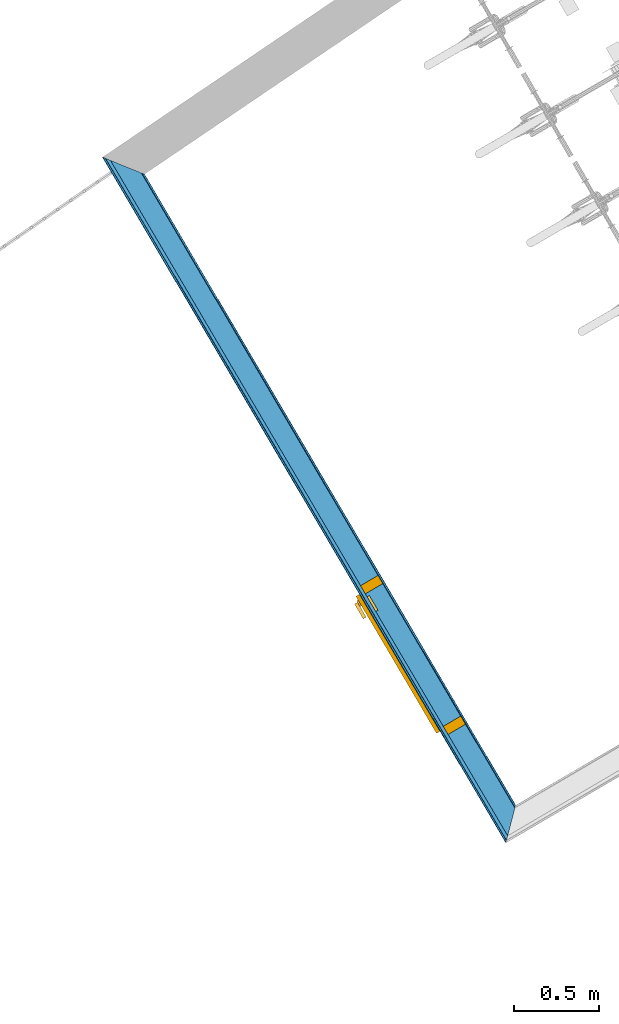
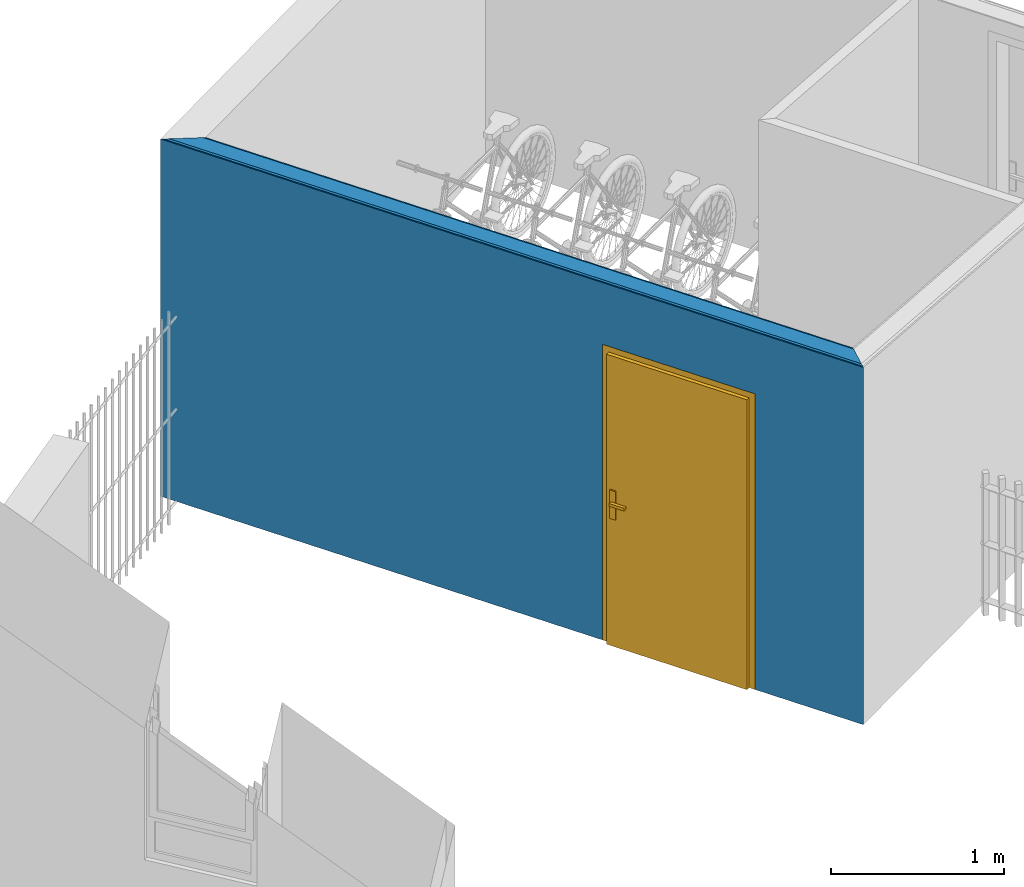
# One storey, part 114 of 195: 4 building element parts, 1 door, 1 opening, 1 element without a shape of its own.
"""IFC2X3 building model written with IfcOpenShell, lengths in metres."""

from ifc_helpers import new_model, entity, si_unit, converted_unit, derived_unit, money_unit, direction, frame, origin_with_axes, origin_2d_with_axis, place, context, subcontext, project, spatial, polyline, rectangle, outline, extrude, boolean, faceted_brep, source, transform, mapped, material, type_object, element, fill, aggregate, save


model = new_model("IFC2X3")

# Units and contexts
model_context = context("Model", 3, precision=1e-05, world=origin_with_axes(), true_north=direction((0.0, 1.0)))
body_context = subcontext(model_context, "Body", "Model", "MODEL_VIEW")
ifc_project = project(units=[si_unit("LENGTHUNIT", "METRE"), si_unit("AREAUNIT", "SQUARE_METRE"), si_unit("VOLUMEUNIT", "CUBIC_METRE"), converted_unit("PLANEANGLEUNIT", "DEGREE", entity("IfcPlaneAngleMeasure", 0.0174532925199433), si_unit("PLANEANGLEUNIT", "RADIAN"), dimensions=[0, 0, 0, 0, 0, 0, 0]), money_unit("CHF"), converted_unit("TIMEUNIT", "Year", entity("IfcTimeMeasure", 31557600.0), si_unit("TIMEUNIT", "SECOND"), dimensions=[0, 0, 1, 0, 0, 0, 0]), si_unit("MASSUNIT", "GRAM", prefix="KILO"), si_unit("THERMODYNAMICTEMPERATUREUNIT", "DEGREE_CELSIUS"), si_unit("LUMINOUSINTENSITYUNIT", "LUMEN"), si_unit("ENERGYUNIT", "JOULE", prefix="MEGA"), derived_unit("THERMALCONDUCTANCEUNIT", [(si_unit("POWERUNIT", "WATT"), 1), (si_unit("LENGTHUNIT", "METRE"), -1), (si_unit("THERMODYNAMICTEMPERATUREUNIT", "KELVIN"), -1)]), derived_unit("SPECIFICHEATCAPACITYUNIT", [(si_unit("ENERGYUNIT", "JOULE"), 1), (si_unit("MASSUNIT", "GRAM", prefix="KILO"), -1), (si_unit("THERMODYNAMICTEMPERATUREUNIT", "KELVIN"), -1)]), derived_unit("MASSDENSITYUNIT", [(si_unit("MASSUNIT", "GRAM", prefix="KILO"), 1), (si_unit("VOLUMEUNIT", "CUBIC_METRE"), -1)])], contexts=[model_context])

# Site, building, storey
site_placement = place(None, origin_with_axes())
site = spatial("IfcSite", under=ifc_project, at=site_placement, Name="Site", CompositionType="ELEMENT")
building_placement = place(site_placement, origin_with_axes())
building = spatial("IfcBuilding", under=site, at=building_placement, Name="Bâtiment", CompositionType="ELEMENT")
storey_placement = place(building_placement, origin_with_axes())
storey = spatial("IfcBuildingStorey", under=building, at=storey_placement, Name="rdc", CompositionType="ELEMENT", Elevation=0.0)

# Door
door_style = type_object("IfcDoorStyle", Name="Porte_1v", ConstructionType="NOTDEFINED", OperationType="NOTDEFINED", ParameterTakesPrecedence=False, Sizeable=False)
shared_shape = source(origin_with_axes(), body_context, "Body", "Brep", [
    faceted_brep([(-0.505, 0.0, 0.0), (-0.505, 0.0, 2.08), (0.505, 0.0, 2.08), (0.505, 0.0, 0.0), (0.465, 0.0, 0.0), (0.465, 0.0, 2.04), (-0.465, 0.0, 2.04), (-0.465, 0.0, 0.0), (-0.505, -0.16, 0.0), (-0.505, -0.16, 2.08), (0.505, -0.16, 2.08), (0.505, -0.16, 0.0), (0.45, -0.16, 0.0), (0.45, -0.015, 0.0), (0.465, -0.015, 0.0), (0.465, -0.015, 2.04), (-0.465, -0.015, 2.04), (-0.465, -0.015, 0.0), (-0.45, -0.015, 0.0), (-0.45, -0.16, 0.0), (-0.45, -0.16, 2.025), (0.45, -0.16, 2.025), (0.45, -0.015, 2.025), (-0.45, -0.015, 2.025)], [[[0, 1, 2, 3, 4, 5, 6, 7]], [[8, 9, 1, 0]], [[9, 10, 2, 1]], [[10, 11, 3, 2]], [[3, 11, 12, 13, 14, 4]], [[5, 4, 14, 15]], [[6, 5, 15, 16]], [[7, 6, 16, 17]], [[0, 7, 17, 18, 19, 8]], [[19, 20, 21, 12, 11, 10, 9, 8]], [[22, 13, 12, 21]], [[17, 16, 15, 14, 13, 22, 23, 18]], [[18, 23, 20, 19]], [[23, 22, 21, 20]]]),
    faceted_brep([(0.4, -0.015, 0.9), (0.4, -0.015, 1.1), (0.44, -0.015, 1.1), (0.44, -0.015, 0.9), (0.4, -0.025, 0.9), (0.4, -0.025, 1.1), (0.44, -0.025, 1.1), (0.44, -0.025, 0.9)], [[[0, 1, 2, 3]], [[0, 4, 5, 1]], [[1, 5, 6, 2]], [[2, 6, 7, 3]], [[3, 7, 4, 0]], [[7, 6, 5, 4]]]),
    faceted_brep([(0.33, -0.025, 1.0), (0.33, -0.025, 1.02), (0.43, -0.025, 1.02), (0.43, -0.025, 1.0), (0.33, -0.045, 1.0), (0.33, -0.045, 1.02), (0.43, -0.045, 1.02), (0.43, -0.045, 1.0)], [[[0, 1, 2, 3]], [[0, 4, 5, 1]], [[1, 5, 6, 2]], [[2, 6, 7, 3]], [[3, 7, 4, 0]], [[7, 6, 5, 4]]]),
    faceted_brep([(0.4, 0.035, 0.9), (0.4, 0.035, 1.1), (0.44, 0.035, 1.1), (0.44, 0.035, 0.9), (0.4, 0.025, 0.9), (0.4, 0.025, 1.1), (0.44, 0.025, 1.1), (0.44, 0.025, 0.9)], [[[0, 1, 2, 3]], [[0, 4, 5, 1]], [[1, 5, 6, 2]], [[2, 6, 7, 3]], [[3, 7, 4, 0]], [[7, 6, 5, 4]]]),
    faceted_brep([(0.33, 0.05500000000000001, 1.0), (0.33, 0.05500000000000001, 1.02), (0.43, 0.05500000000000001, 1.02), (0.43, 0.05500000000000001, 1.0), (0.33, 0.035, 1.0), (0.33, 0.035, 1.02), (0.43, 0.035, 1.02), (0.43, 0.035, 1.0)], [[[0, 1, 2, 3]], [[0, 4, 5, 1]], [[1, 5, 6, 2]], [[2, 6, 7, 3]], [[3, 7, 4, 0]], [[7, 6, 5, 4]]]),
    faceted_brep([(0.465, 0.025, 0.0), (0.465, -0.015, 0.0), (-0.465, -0.015, 0.0), (-0.465, 0.025, 0.0), (0.465, 0.025, 2.04), (0.465, -0.015, 2.04), (-0.465, -0.015, 2.04), (-0.465, 0.025, 2.04)], [[[0, 1, 2, 3]], [[4, 5, 1, 0]], [[1, 5, 6, 2]], [[3, 2, 6, 7]], [[0, 3, 7, 4]], [[7, 6, 5, 4]]]),
])
wall_placement = place(storey_placement, frame((9543.49927344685, -1034.801087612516, 57.7), z_axis=(0.0, 0.0, 1.0), x_axis=(0.5069461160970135, -0.8619777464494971, 0.0)))
opening_placement = place(wall_placement, frame((3.432817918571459, 0.0, 0.0), z_axis=(0.0, 0.0, 1.0), x_axis=(1.0, 0.0, 0.0)))
door_placement = place(opening_placement, frame((0.4649999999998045, 0.0, 0.0), z_axis=(0.0, 0.0, 1.0), x_axis=(-1.0, 0.0, 0.0)))
door = element("IfcDoor", 1, at=door_placement, inside=storey, type_object=door_style, Name="Por-300", OverallHeight=2.04, OverallWidth=0.93, context=body_context, shape_type="MappedRepresentation", body=[
    mapped(shared_shape, transform((0.4650000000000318, 0.0, 0.0))),
])

# Wall, opening
wall_type = type_object("IfcWallType", Name="1/Ossatur bois 160   non isol 160", PredefinedType="NOTDEFINED")
wall = element("IfcWall", 2, at=wall_placement, inside=storey, type_object=wall_type, Name="Mur-108")
opening = element("IfcOpeningElement", 3, at=opening_placement, cuts=wall, Name="Por-300", context=body_context, shape_type="SweptSolid", body=[
    extrude(rectangle(XDim=1.01000001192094, YDim=2.079999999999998, at=origin_2d_with_axis()), frame((5.960600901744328e-09, 0.1599999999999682, 1.039999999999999), z_axis=(0.0, 1.0, 0.0), x_axis=(1.0, 0.0, 0.0)), (0.0, 0.0, -1.0), 0.32),
])

fill(opening, door)

# Building element part
ifc_material_1 = material(Name="Sans Trame 296962763")
building_element_part_1_placement = place(wall_placement, origin_with_axes())
building_element_part_1 = element("IfcBuildingElementPart", 4, at=building_element_part_1_placement, material=ifc_material_1, Name="Sans Trame 296962763", context=body_context, shape_type="CSG", body=[
    boolean("DIFFERENCE", boolean("DIFFERENCE", boolean("DIFFERENCE", boolean("DIFFERENCE", extrude(outline(polyline([(-0.01019375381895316, 0.1499999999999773), (4.656288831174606, 0.1499999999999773), (4.656288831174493, 0.1600000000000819), (-0.01019375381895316, 0.1600000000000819), (-0.01019375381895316, 0.1499999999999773)])), origin_with_axes(), (0.0, 0.0, 1.0), 2.75), faceted_brep([(0.2102522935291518, 0.1600000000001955, 2.500181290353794), (0.2102522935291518, 0.1600000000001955, 0.0), (-0.01019375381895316, 0.1600000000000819, 0.0), (-0.01019375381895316, 0.1600000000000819, 2.75), (4.656288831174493, 0.1600000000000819, 2.75), (4.656288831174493, 0.1600000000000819, 0.0), (4.496288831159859, 0.1600000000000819, 0.0), (4.496288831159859, 0.1600000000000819, 2.500181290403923), (0.1971115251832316, 0.1499999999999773, 2.501056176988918), (0.1971115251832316, 0.1499999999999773, 0.0), (-0.01019375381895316, 0.1499999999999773, 0.0), (-0.01019375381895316, 0.1499999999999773, 2.75), (4.656288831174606, 0.1499999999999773, 2.75), (4.656288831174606, 0.1499999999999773, 0.0), (4.506288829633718, 0.1500000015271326, 0.0), (4.50628883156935, 0.1499999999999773, 2.50105617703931)], [[[0, 1, 2, 3, 4, 5, 6, 7]], [[1, 0, 8, 9]], [[1, 9, 10, 2]], [[3, 2, 10, 11]], [[3, 11, 12, 4]], [[12, 13, 5, 4]], [[14, 6, 5, 13]], [[7, 6, 14, 15]], [[0, 7, 15, 8]], [[15, 14, 13, 12, 11, 10, 9, 8]]])), faceted_brep([(0.1971115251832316, 0.1499999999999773, 2.501056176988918), (0.1971115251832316, 0.1499999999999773, 0.0), (-0.01019375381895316, 0.1499999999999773, 0.0), (-0.01019375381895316, 0.1499999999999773, 2.75), (4.656288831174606, 0.1499999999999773, 2.75), (4.656288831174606, 0.1499999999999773, 0.0), (4.506288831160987, 0.1499999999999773, 0.0), (4.50628883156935, 0.1499999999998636, 2.50105617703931), (0.03942230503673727, 0.02999999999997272, 2.511554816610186), (0.03942230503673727, 0.02999999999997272, 0.0), (-0.01019375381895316, 0.0300000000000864, 0.0), (-0.01019375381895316, 0.0300000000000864, 2.75), (4.656288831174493, 0.0300000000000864, 2.75), (4.656288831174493, 0.0300000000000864, 0.0), (4.626288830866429, 0.03000000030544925, 0.0), (4.626288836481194, 0.02999999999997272, 2.511554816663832)], [[[0, 1, 2, 3, 4, 5, 6, 7]], [[1, 0, 8, 9]], [[1, 9, 10, 2]], [[3, 2, 10, 11]], [[3, 11, 12, 4]], [[12, 13, 5, 4]], [[14, 6, 5, 13]], [[7, 6, 14, 15]], [[0, 7, 15, 8]], [[15, 14, 13, 12, 11, 10, 9, 8]]])), faceted_brep([(0.03942230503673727, 0.02999999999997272, 2.511554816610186), (0.03942230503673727, 0.02999999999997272, 0.0), (-0.01019375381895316, 0.0300000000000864, 0.0), (-0.01019375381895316, 0.0300000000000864, 2.75), (4.656288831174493, 0.0300000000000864, 2.75), (4.656288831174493, 0.0300000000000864, 0.0), (4.626288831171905, 0.0300000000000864, 0.0), (4.626288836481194, 0.02999999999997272, 2.511554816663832), (0.01314076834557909, 0.009999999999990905, 2.513304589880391), (0.01314076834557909, 0.009999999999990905, 0.0), (-0.01019375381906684, 0.009999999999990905, 0.0), (-0.01019375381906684, 0.009999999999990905, 2.75), (4.656288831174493, 0.009999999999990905, 2.75), (4.656288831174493, 0.009999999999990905, 0.0), (4.646288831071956, 0.01000000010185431, 0.0), (4.646288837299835, 0.009999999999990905, 2.513304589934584)], [[[0, 1, 2, 3, 4, 5, 6, 7]], [[1, 0, 8, 9]], [[1, 9, 10, 2]], [[3, 2, 10, 11]], [[3, 11, 12, 4]], [[12, 13, 5, 4]], [[14, 6, 5, 13]], [[7, 6, 14, 15]], [[0, 7, 15, 8]], [[15, 14, 13, 12, 11, 10, 9, 8]]])), faceted_brep([(0.01314076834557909, 0.009999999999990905, 2.513304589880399), (0.01314076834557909, 0.009999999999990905, 0.0), (-0.01019375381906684, 0.009999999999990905, 0.0), (-0.01019375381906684, 0.009999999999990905, 2.75), (4.656288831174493, 0.009999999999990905, 2.75), (4.656288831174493, 0.009999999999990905, 0.0), (4.646288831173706, 0.009999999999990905, 0.0), (4.646288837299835, 0.009999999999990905, 2.513304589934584), (0.0, 0.0, 2.514179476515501), (0.0, 0.0, 0.0), (-0.01019375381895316, 0.0, 0.0), (-0.01019375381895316, 0.0, 2.75), (4.656288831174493, 0.0, 2.75), (4.656288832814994, 4.893990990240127e-09, 2.514179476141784), (4.656288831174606, 0.0, 0.0)], [[[0, 1, 2, 3, 4, 5, 6, 7]], [[1, 0, 8, 9]], [[1, 9, 10, 2]], [[3, 2, 10, 11]], [[3, 11, 12, 4]], [[13, 14, 5, 4, 12]], [[14, 6, 5]], [[7, 6, 14, 13]], [[0, 7, 13, 8]], [[8, 13, 12, 11, 10, 9]]])),
])

ifc_material_2 = material(Name="Lame d'air 275581439")
building_element_part_2_placement = place(wall_placement, origin_with_axes())
building_element_part_2 = element("IfcBuildingElementPart", 5, at=building_element_part_2_placement, material=ifc_material_2, Name="Lame d'air 275581439", context=body_context, shape_type="CSG", body=[
    boolean("DIFFERENCE", boolean("DIFFERENCE", boolean("DIFFERENCE", boolean("DIFFERENCE", extrude(outline(polyline([(-0.01019375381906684, 0.02999999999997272), (4.656288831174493, 0.02999999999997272), (4.656288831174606, 0.1499999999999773), (-0.01019375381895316, 0.1499999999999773), (-0.01019375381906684, 0.02999999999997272)])), origin_with_axes(), (0.0, 0.0, 1.0), 2.75), faceted_brep([(0.2102522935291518, 0.1600000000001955, 2.500181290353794), (0.2102522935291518, 0.1600000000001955, 0.0), (-0.01019375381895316, 0.1600000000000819, 0.0), (-0.01019375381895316, 0.1600000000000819, 2.75), (4.656288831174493, 0.1600000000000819, 2.75), (4.656288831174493, 0.1600000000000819, 0.0), (4.496288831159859, 0.1600000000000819, 0.0), (4.496288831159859, 0.1600000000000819, 2.500181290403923), (0.1971115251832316, 0.1499999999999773, 2.501056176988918), (0.1971115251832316, 0.1499999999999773, 0.0), (-0.01019375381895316, 0.1499999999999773, 0.0), (-0.01019375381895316, 0.1499999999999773, 2.75), (4.656288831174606, 0.1499999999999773, 2.75), (4.656288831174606, 0.1499999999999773, 0.0), (4.506288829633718, 0.1500000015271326, 0.0), (4.50628883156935, 0.1499999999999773, 2.50105617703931)], [[[0, 1, 2, 3, 4, 5, 6, 7]], [[1, 0, 8, 9]], [[1, 9, 10, 2]], [[3, 2, 10, 11]], [[3, 11, 12, 4]], [[12, 13, 5, 4]], [[14, 6, 5, 13]], [[7, 6, 14, 15]], [[0, 7, 15, 8]], [[15, 14, 13, 12, 11, 10, 9, 8]]])), faceted_brep([(0.1971115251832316, 0.1499999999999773, 2.501056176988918), (0.1971115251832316, 0.1499999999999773, 0.0), (-0.01019375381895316, 0.1499999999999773, 0.0), (-0.01019375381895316, 0.1499999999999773, 2.75), (4.656288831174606, 0.1499999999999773, 2.75), (4.656288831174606, 0.1499999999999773, 0.0), (4.506288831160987, 0.1499999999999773, 0.0), (4.50628883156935, 0.1499999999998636, 2.50105617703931), (0.03942230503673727, 0.02999999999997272, 2.511554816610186), (0.03942230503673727, 0.02999999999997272, 0.0), (-0.01019375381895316, 0.0300000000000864, 0.0), (-0.01019375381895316, 0.0300000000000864, 2.75), (4.656288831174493, 0.0300000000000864, 2.75), (4.656288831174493, 0.0300000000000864, 0.0), (4.626288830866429, 0.03000000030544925, 0.0), (4.626288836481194, 0.02999999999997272, 2.511554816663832)], [[[0, 1, 2, 3, 4, 5, 6, 7]], [[1, 0, 8, 9]], [[1, 9, 10, 2]], [[3, 2, 10, 11]], [[3, 11, 12, 4]], [[12, 13, 5, 4]], [[14, 6, 5, 13]], [[7, 6, 14, 15]], [[0, 7, 15, 8]], [[15, 14, 13, 12, 11, 10, 9, 8]]])), faceted_brep([(0.03942230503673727, 0.02999999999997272, 2.511554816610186), (0.03942230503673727, 0.02999999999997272, 0.0), (-0.01019375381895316, 0.0300000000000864, 0.0), (-0.01019375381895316, 0.0300000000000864, 2.75), (4.656288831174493, 0.0300000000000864, 2.75), (4.656288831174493, 0.0300000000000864, 0.0), (4.626288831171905, 0.0300000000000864, 0.0), (4.626288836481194, 0.02999999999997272, 2.511554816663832), (0.01314076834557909, 0.009999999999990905, 2.513304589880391), (0.01314076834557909, 0.009999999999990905, 0.0), (-0.01019375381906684, 0.009999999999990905, 0.0), (-0.01019375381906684, 0.009999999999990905, 2.75), (4.656288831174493, 0.009999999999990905, 2.75), (4.656288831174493, 0.009999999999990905, 0.0), (4.646288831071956, 0.01000000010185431, 0.0), (4.646288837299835, 0.009999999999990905, 2.513304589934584)], [[[0, 1, 2, 3, 4, 5, 6, 7]], [[1, 0, 8, 9]], [[1, 9, 10, 2]], [[3, 2, 10, 11]], [[3, 11, 12, 4]], [[12, 13, 5, 4]], [[14, 6, 5, 13]], [[7, 6, 14, 15]], [[0, 7, 15, 8]], [[15, 14, 13, 12, 11, 10, 9, 8]]])), faceted_brep([(0.01314076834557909, 0.009999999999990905, 2.513304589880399), (0.01314076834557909, 0.009999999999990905, 0.0), (-0.01019375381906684, 0.009999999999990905, 0.0), (-0.01019375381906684, 0.009999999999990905, 2.75), (4.656288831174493, 0.009999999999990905, 2.75), (4.656288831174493, 0.009999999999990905, 0.0), (4.646288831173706, 0.009999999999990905, 0.0), (4.646288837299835, 0.009999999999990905, 2.513304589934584), (0.0, 0.0, 2.514179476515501), (0.0, 0.0, 0.0), (-0.01019375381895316, 0.0, 0.0), (-0.01019375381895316, 0.0, 2.75), (4.656288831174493, 0.0, 2.75), (4.656288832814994, 4.893990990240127e-09, 2.514179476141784), (4.656288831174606, 0.0, 0.0)], [[[0, 1, 2, 3, 4, 5, 6, 7]], [[1, 0, 8, 9]], [[1, 9, 10, 2]], [[3, 2, 10, 11]], [[3, 11, 12, 4]], [[13, 14, 5, 4, 12]], [[14, 6, 5]], [[7, 6, 14, 13]], [[0, 7, 13, 8]], [[8, 13, 12, 11, 10, 9]]])),
])

ifc_material_3 = material(Name="Lame d'air 323202302")
building_element_part_3_placement = place(wall_placement, origin_with_axes())
building_element_part_3 = element("IfcBuildingElementPart", 6, at=building_element_part_3_placement, material=ifc_material_3, Name="Lame d'air 323202302", context=body_context, shape_type="CSG", body=[
    boolean("DIFFERENCE", boolean("DIFFERENCE", boolean("DIFFERENCE", boolean("DIFFERENCE", extrude(outline(polyline([(-0.01019375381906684, 0.009999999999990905), (4.656288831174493, 0.009999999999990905), (4.656288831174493, 0.02999999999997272), (-0.01019375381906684, 0.02999999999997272), (-0.01019375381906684, 0.009999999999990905)])), origin_with_axes(), (0.0, 0.0, 1.0), 2.75), faceted_brep([(0.2102522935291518, 0.1600000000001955, 2.500181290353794), (0.2102522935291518, 0.1600000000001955, 0.0), (-0.01019375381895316, 0.1600000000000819, 0.0), (-0.01019375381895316, 0.1600000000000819, 2.75), (4.656288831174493, 0.1600000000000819, 2.75), (4.656288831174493, 0.1600000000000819, 0.0), (4.496288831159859, 0.1600000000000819, 0.0), (4.496288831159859, 0.1600000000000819, 2.500181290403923), (0.1971115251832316, 0.1499999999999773, 2.501056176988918), (0.1971115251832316, 0.1499999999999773, 0.0), (-0.01019375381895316, 0.1499999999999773, 0.0), (-0.01019375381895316, 0.1499999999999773, 2.75), (4.656288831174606, 0.1499999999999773, 2.75), (4.656288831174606, 0.1499999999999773, 0.0), (4.506288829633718, 0.1500000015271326, 0.0), (4.50628883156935, 0.1499999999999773, 2.50105617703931)], [[[0, 1, 2, 3, 4, 5, 6, 7]], [[1, 0, 8, 9]], [[1, 9, 10, 2]], [[3, 2, 10, 11]], [[3, 11, 12, 4]], [[12, 13, 5, 4]], [[14, 6, 5, 13]], [[7, 6, 14, 15]], [[0, 7, 15, 8]], [[15, 14, 13, 12, 11, 10, 9, 8]]])), faceted_brep([(0.1971115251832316, 0.1499999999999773, 2.501056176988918), (0.1971115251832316, 0.1499999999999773, 0.0), (-0.01019375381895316, 0.1499999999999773, 0.0), (-0.01019375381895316, 0.1499999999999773, 2.75), (4.656288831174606, 0.1499999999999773, 2.75), (4.656288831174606, 0.1499999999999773, 0.0), (4.506288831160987, 0.1499999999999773, 0.0), (4.50628883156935, 0.1499999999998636, 2.50105617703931), (0.03942230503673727, 0.02999999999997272, 2.511554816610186), (0.03942230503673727, 0.02999999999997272, 0.0), (-0.01019375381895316, 0.0300000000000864, 0.0), (-0.01019375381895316, 0.0300000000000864, 2.75), (4.656288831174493, 0.0300000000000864, 2.75), (4.656288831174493, 0.0300000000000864, 0.0), (4.626288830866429, 0.03000000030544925, 0.0), (4.626288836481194, 0.02999999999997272, 2.511554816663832)], [[[0, 1, 2, 3, 4, 5, 6, 7]], [[1, 0, 8, 9]], [[1, 9, 10, 2]], [[3, 2, 10, 11]], [[3, 11, 12, 4]], [[12, 13, 5, 4]], [[14, 6, 5, 13]], [[7, 6, 14, 15]], [[0, 7, 15, 8]], [[15, 14, 13, 12, 11, 10, 9, 8]]])), faceted_brep([(0.03942230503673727, 0.02999999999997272, 2.511554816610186), (0.03942230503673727, 0.02999999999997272, 0.0), (-0.01019375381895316, 0.0300000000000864, 0.0), (-0.01019375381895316, 0.0300000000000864, 2.75), (4.656288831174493, 0.0300000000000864, 2.75), (4.656288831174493, 0.0300000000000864, 0.0), (4.626288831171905, 0.0300000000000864, 0.0), (4.626288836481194, 0.02999999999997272, 2.511554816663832), (0.01314076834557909, 0.009999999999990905, 2.513304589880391), (0.01314076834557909, 0.009999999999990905, 0.0), (-0.01019375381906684, 0.009999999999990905, 0.0), (-0.01019375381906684, 0.009999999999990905, 2.75), (4.656288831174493, 0.009999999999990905, 2.75), (4.656288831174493, 0.009999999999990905, 0.0), (4.646288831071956, 0.01000000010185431, 0.0), (4.646288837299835, 0.009999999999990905, 2.513304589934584)], [[[0, 1, 2, 3, 4, 5, 6, 7]], [[1, 0, 8, 9]], [[1, 9, 10, 2]], [[3, 2, 10, 11]], [[3, 11, 12, 4]], [[12, 13, 5, 4]], [[14, 6, 5, 13]], [[7, 6, 14, 15]], [[0, 7, 15, 8]], [[15, 14, 13, 12, 11, 10, 9, 8]]])), faceted_brep([(0.01314076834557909, 0.009999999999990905, 2.513304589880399), (0.01314076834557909, 0.009999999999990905, 0.0), (-0.01019375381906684, 0.009999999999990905, 0.0), (-0.01019375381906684, 0.009999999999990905, 2.75), (4.656288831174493, 0.009999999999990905, 2.75), (4.656288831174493, 0.009999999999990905, 0.0), (4.646288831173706, 0.009999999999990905, 0.0), (4.646288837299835, 0.009999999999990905, 2.513304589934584), (0.0, 0.0, 2.514179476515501), (0.0, 0.0, 0.0), (-0.01019375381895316, 0.0, 0.0), (-0.01019375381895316, 0.0, 2.75), (4.656288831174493, 0.0, 2.75), (4.656288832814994, 4.893990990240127e-09, 2.514179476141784), (4.656288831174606, 0.0, 0.0)], [[[0, 1, 2, 3, 4, 5, 6, 7]], [[1, 0, 8, 9]], [[1, 9, 10, 2]], [[3, 2, 10, 11]], [[3, 11, 12, 4]], [[13, 14, 5, 4, 12]], [[14, 6, 5]], [[7, 6, 14, 13]], [[0, 7, 13, 8]], [[8, 13, 12, 11, 10, 9]]])),
])

ifc_material_4 = material(Name="Hachure solide 323202122")
building_element_part_4_placement = place(wall_placement, origin_with_axes())
building_element_part_4 = element("IfcBuildingElementPart", 7, at=building_element_part_4_placement, material=ifc_material_4, Name="Hachure solide 323202122", context=body_context, shape_type="CSG", body=[
    boolean("DIFFERENCE", boolean("DIFFERENCE", boolean("DIFFERENCE", boolean("DIFFERENCE", extrude(outline(polyline([(-0.01019375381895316, 0.0), (4.656288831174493, 0.0), (4.656288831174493, 0.009999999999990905), (-0.01019375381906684, 0.009999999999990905), (-0.01019375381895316, 0.0)])), origin_with_axes(), (0.0, 0.0, 1.0), 2.75), faceted_brep([(0.2102522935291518, 0.1600000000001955, 2.500181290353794), (0.2102522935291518, 0.1600000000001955, 0.0), (-0.01019375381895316, 0.1600000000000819, 0.0), (-0.01019375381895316, 0.1600000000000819, 2.75), (4.656288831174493, 0.1600000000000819, 2.75), (4.656288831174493, 0.1600000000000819, 0.0), (4.496288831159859, 0.1600000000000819, 0.0), (4.496288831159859, 0.1600000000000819, 2.500181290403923), (0.1971115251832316, 0.1499999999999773, 2.501056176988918), (0.1971115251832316, 0.1499999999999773, 0.0), (-0.01019375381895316, 0.1499999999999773, 0.0), (-0.01019375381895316, 0.1499999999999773, 2.75), (4.656288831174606, 0.1499999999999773, 2.75), (4.656288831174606, 0.1499999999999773, 0.0), (4.506288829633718, 0.1500000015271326, 0.0), (4.50628883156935, 0.1499999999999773, 2.50105617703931)], [[[0, 1, 2, 3, 4, 5, 6, 7]], [[1, 0, 8, 9]], [[1, 9, 10, 2]], [[3, 2, 10, 11]], [[3, 11, 12, 4]], [[12, 13, 5, 4]], [[14, 6, 5, 13]], [[7, 6, 14, 15]], [[0, 7, 15, 8]], [[15, 14, 13, 12, 11, 10, 9, 8]]])), faceted_brep([(0.1971115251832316, 0.1499999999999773, 2.501056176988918), (0.1971115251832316, 0.1499999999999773, 0.0), (-0.01019375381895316, 0.1499999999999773, 0.0), (-0.01019375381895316, 0.1499999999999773, 2.75), (4.656288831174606, 0.1499999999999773, 2.75), (4.656288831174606, 0.1499999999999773, 0.0), (4.506288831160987, 0.1499999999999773, 0.0), (4.50628883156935, 0.1499999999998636, 2.50105617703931), (0.03942230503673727, 0.02999999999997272, 2.511554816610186), (0.03942230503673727, 0.02999999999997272, 0.0), (-0.01019375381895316, 0.0300000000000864, 0.0), (-0.01019375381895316, 0.0300000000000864, 2.75), (4.656288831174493, 0.0300000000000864, 2.75), (4.656288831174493, 0.0300000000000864, 0.0), (4.626288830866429, 0.03000000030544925, 0.0), (4.626288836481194, 0.02999999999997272, 2.511554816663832)], [[[0, 1, 2, 3, 4, 5, 6, 7]], [[1, 0, 8, 9]], [[1, 9, 10, 2]], [[3, 2, 10, 11]], [[3, 11, 12, 4]], [[12, 13, 5, 4]], [[14, 6, 5, 13]], [[7, 6, 14, 15]], [[0, 7, 15, 8]], [[15, 14, 13, 12, 11, 10, 9, 8]]])), faceted_brep([(0.03942230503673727, 0.02999999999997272, 2.511554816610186), (0.03942230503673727, 0.02999999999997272, 0.0), (-0.01019375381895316, 0.0300000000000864, 0.0), (-0.01019375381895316, 0.0300000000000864, 2.75), (4.656288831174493, 0.0300000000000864, 2.75), (4.656288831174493, 0.0300000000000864, 0.0), (4.626288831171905, 0.0300000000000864, 0.0), (4.626288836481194, 0.02999999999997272, 2.511554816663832), (0.01314076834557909, 0.009999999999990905, 2.513304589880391), (0.01314076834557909, 0.009999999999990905, 0.0), (-0.01019375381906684, 0.009999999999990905, 0.0), (-0.01019375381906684, 0.009999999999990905, 2.75), (4.656288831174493, 0.009999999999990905, 2.75), (4.656288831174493, 0.009999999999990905, 0.0), (4.646288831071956, 0.01000000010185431, 0.0), (4.646288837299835, 0.009999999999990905, 2.513304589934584)], [[[0, 1, 2, 3, 4, 5, 6, 7]], [[1, 0, 8, 9]], [[1, 9, 10, 2]], [[3, 2, 10, 11]], [[3, 11, 12, 4]], [[12, 13, 5, 4]], [[14, 6, 5, 13]], [[7, 6, 14, 15]], [[0, 7, 15, 8]], [[15, 14, 13, 12, 11, 10, 9, 8]]])), faceted_brep([(0.01314076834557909, 0.009999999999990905, 2.513304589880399), (0.01314076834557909, 0.009999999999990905, 0.0), (-0.01019375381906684, 0.009999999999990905, 0.0), (-0.01019375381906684, 0.009999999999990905, 2.75), (4.656288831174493, 0.009999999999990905, 2.75), (4.656288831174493, 0.009999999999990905, 0.0), (4.646288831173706, 0.009999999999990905, 0.0), (4.646288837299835, 0.009999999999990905, 2.513304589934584), (0.0, 0.0, 2.514179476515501), (0.0, 0.0, 0.0), (-0.01019375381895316, 0.0, 0.0), (-0.01019375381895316, 0.0, 2.75), (4.656288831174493, 0.0, 2.75), (4.656288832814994, 4.893990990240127e-09, 2.514179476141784), (4.656288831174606, 0.0, 0.0)], [[[0, 1, 2, 3, 4, 5, 6, 7]], [[1, 0, 8, 9]], [[1, 9, 10, 2]], [[3, 2, 10, 11]], [[3, 11, 12, 4]], [[13, 14, 5, 4, 12]], [[14, 6, 5]], [[7, 6, 14, 13]], [[0, 7, 13, 8]], [[8, 13, 12, 11, 10, 9]]])),
])

aggregate(wall, [building_element_part_1, building_element_part_2, building_element_part_3, building_element_part_4])

save(model, "model.ifc")
